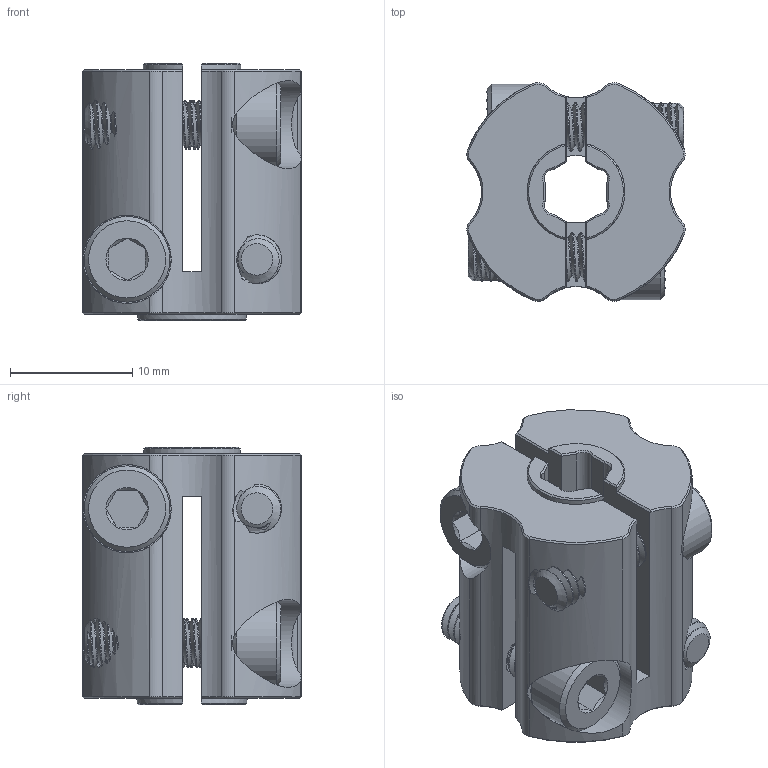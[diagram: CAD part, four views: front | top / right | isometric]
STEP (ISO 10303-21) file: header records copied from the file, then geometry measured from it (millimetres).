
FILE_DESCRIPTION(/* description */ ('STEP AP203'),/* implementation_level */ '2;1');
FILE_NAME(/* name */ '4007-1006-2005.step',/* time_stamp */ '2026-01-05T17:45:54-06:00',/* author */ (''),/* organization */ (''),/* preprocessor_version */ 'ST-DEVELOPER v20.1',/* originating_system */ 'Autodesk Translation Framework v14.21.0.0',/* authorisation */ '');
FILE_SCHEMA (('AUTOMOTIVE_DESIGN { 1 0 10303 214 3 1 1 }'));
Products named in the file (2): 4007-1006-2005 assembly; 2800-0004-0012
Assembly tree (4 placements, depth 2):
  4007-1006-2005 assembly
    2800-0004-0012  x4
Bounding box: 17.83 x 17.83 x 21 mm (x, y, z)
Volume: 4040.5 mm3; surface area: 4901 mm2
Topology: 5 solids, 5 shells, 521 faces, 1404 edges, 896 vertices
Faces by surface type: cylinder 296, plane 98, cone 85, bspline 42
Full cylindrical faces by diameter (mm): 3.091 x64, 3.3 x32, 4 x92, 4.1 x4, 7 x4, 7.2 x4
Entity records: 56615 total; most frequent: CARTESIAN_POINT 48632, ORIENTED_EDGE 1914, DIRECTION 1324, EDGE_CURVE 957, VERTEX_POINT 611, AXIS2_PLACEMENT_3D 507, B_SPLINE_CURVE_WITH_KNOTS 405, EDGE_LOOP 362
